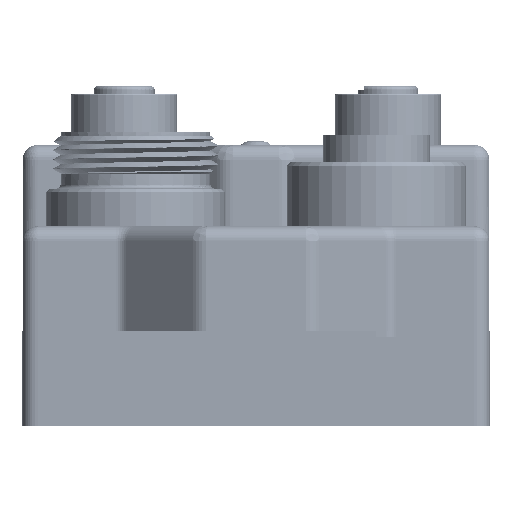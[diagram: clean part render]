
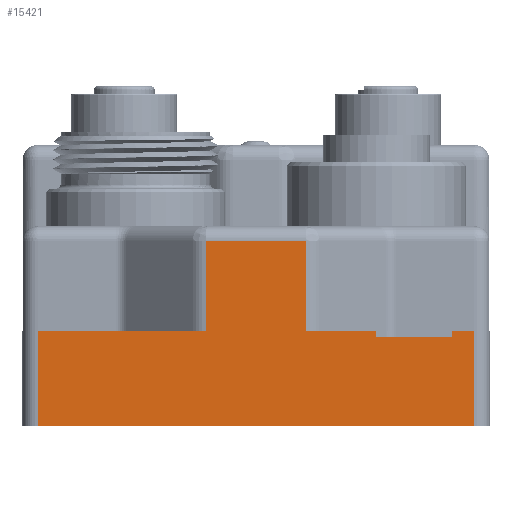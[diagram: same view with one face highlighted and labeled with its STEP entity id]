
A CAD part, front view. The second image highlights one B-rep face of the part: STEP entity #15421.
In plain terms, the highlighted planar face has unit normal (0, -1, 0).
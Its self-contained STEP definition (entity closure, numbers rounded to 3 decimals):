
#8688=CARTESIAN_POINT('',(-8.,-5.25,0.0));
#8689=VERTEX_POINT('',#8688);
#8739=CARTESIAN_POINT('',(50.,-5.25,0.0));
#8740=VERTEX_POINT('',#8739);
#8748=CARTESIAN_POINT('',(-8.,-5.25,0.0));
#8749=DIRECTION('',(1.0,0.0,0.0));
#8750=VECTOR('',#8749,58.);
#8751=LINE('',#8748,#8750);
#8752=EDGE_CURVE('',#8689,#8740,#8751,.T.);
#9589=CARTESIAN_POINT('',(-8.,-5.25,12.6));
#9590=VERTEX_POINT('',#9589);
#9607=CARTESIAN_POINT('',(-8.,-5.25,0.0));
#9608=DIRECTION('',(0.0,0.0,1.0));
#9609=VECTOR('',#9608,12.6);
#9610=LINE('',#9607,#9609);
#9611=EDGE_CURVE('',#8689,#9590,#9610,.T.);
#9816=CARTESIAN_POINT('',(50.,-5.25,12.6));
#9817=VERTEX_POINT('',#9816);
#9825=CARTESIAN_POINT('',(50.,-5.25,0.0));
#9826=DIRECTION('',(0.0,0.0,1.0));
#9827=VECTOR('',#9826,12.6);
#9828=LINE('',#9825,#9827);
#9829=EDGE_CURVE('',#8740,#9817,#9828,.T.);
#9846=CARTESIAN_POINT('',(37.,-5.25,12.6));
#9847=VERTEX_POINT('',#9846);
#9864=CARTESIAN_POINT('',(27.635,-5.25,12.6));
#9865=VERTEX_POINT('',#9864);
#9873=CARTESIAN_POINT('',(37.,-5.25,12.6));
#9874=DIRECTION('',(-1.0,0.0,0.0));
#9875=VECTOR('',#9874,9.365);
#9876=LINE('',#9873,#9875);
#9877=EDGE_CURVE('',#9847,#9865,#9876,.T.);
#9896=CARTESIAN_POINT('',(14.365,-5.25,12.6));
#9897=VERTEX_POINT('',#9896);
#9898=CARTESIAN_POINT('',(14.365,-5.25,12.6));
#9899=DIRECTION('',(-1.0,0.0,0.0));
#9900=VECTOR('',#9899,22.365);
#9901=LINE('',#9898,#9900);
#9902=EDGE_CURVE('',#9897,#9590,#9901,.T.);
#12590=CARTESIAN_POINT('',(47.,-5.25,12.6));
#12591=VERTEX_POINT('',#12590);
#12598=CARTESIAN_POINT('',(50.,-5.25,12.6));
#12599=DIRECTION('',(-1.0,0.0,0.0));
#12600=VECTOR('',#12599,3.);
#12601=LINE('',#12598,#12600);
#12602=EDGE_CURVE('',#9817,#12591,#12601,.T.);
#12721=CARTESIAN_POINT('',(47.,-5.25,11.8));
#12722=VERTEX_POINT('',#12721);
#12723=CARTESIAN_POINT('',(37.,-5.25,11.8));
#12724=VERTEX_POINT('',#12723);
#12725=CARTESIAN_POINT('',(47.,-5.25,11.8));
#12726=DIRECTION('',(-1.0,0.0,0.0));
#12727=VECTOR('',#12726,10.);
#12728=LINE('',#12725,#12727);
#12729=EDGE_CURVE('',#12722,#12724,#12728,.T.);
#12781=CARTESIAN_POINT('',(47.,-5.25,12.6));
#12782=DIRECTION('',(0.0,0.0,-1.0));
#12783=VECTOR('',#12782,0.8);
#12784=LINE('',#12781,#12783);
#12785=EDGE_CURVE('',#12591,#12722,#12784,.T.);
#12825=CARTESIAN_POINT('',(37.,-5.25,11.8));
#12826=DIRECTION('',(0.0,0.0,1.0));
#12827=VECTOR('',#12826,0.8);
#12828=LINE('',#12825,#12827);
#12829=EDGE_CURVE('',#12724,#9847,#12828,.T.);
#15370=CARTESIAN_POINT('',(14.365,-5.25,24.5));
#15371=VERTEX_POINT('',#15370);
#15381=CARTESIAN_POINT('',(14.365,-5.25,24.5));
#15382=DIRECTION('',(0.0,0.0,-1.0));
#15383=VECTOR('',#15382,11.9);
#15384=LINE('',#15381,#15383);
#15385=EDGE_CURVE('',#15371,#9897,#15384,.T.);
#15390=CARTESIAN_POINT('',(50.,-5.25,0.0));
#15391=DIRECTION('',(0.0,-1.0,0.0));
#15392=DIRECTION('',(0.0,0.0,-1.0));
#15393=AXIS2_PLACEMENT_3D('',#15390,#15391,#15392);
#15394=PLANE('',#15393);
#15395=CARTESIAN_POINT('',(27.635,-5.25,24.5));
#15396=VERTEX_POINT('',#15395);
#15397=CARTESIAN_POINT('',(14.365,-5.25,24.5));
#15398=DIRECTION('',(1.0,0.0,0.0));
#15399=VECTOR('',#15398,13.269);
#15400=LINE('',#15397,#15399);
#15401=EDGE_CURVE('',#15371,#15396,#15400,.T.);
#15402=ORIENTED_EDGE('',*,*,#15401,.F.);
#15403=ORIENTED_EDGE('',*,*,#15385,.T.);
#15404=ORIENTED_EDGE('',*,*,#9902,.T.);
#15405=ORIENTED_EDGE('',*,*,#9611,.F.);
#15406=ORIENTED_EDGE('',*,*,#8752,.T.);
#15407=ORIENTED_EDGE('',*,*,#9829,.T.);
#15408=ORIENTED_EDGE('',*,*,#12602,.T.);
#15409=ORIENTED_EDGE('',*,*,#12785,.T.);
#15410=ORIENTED_EDGE('',*,*,#12729,.T.);
#15411=ORIENTED_EDGE('',*,*,#12829,.T.);
#15412=ORIENTED_EDGE('',*,*,#9877,.T.);
#15413=CARTESIAN_POINT('',(27.635,-5.25,12.6));
#15414=DIRECTION('',(0.0,0.0,1.0));
#15415=VECTOR('',#15414,11.9);
#15416=LINE('',#15413,#15415);
#15417=EDGE_CURVE('',#9865,#15396,#15416,.T.);
#15418=ORIENTED_EDGE('',*,*,#15417,.T.);
#15419=EDGE_LOOP('',(#15402,#15403,#15404,#15405,#15406,#15407,#15408,#15409,#15410,#15411,#15412,#15418));
#15420=FACE_OUTER_BOUND('',#15419,.T.);
#15421=ADVANCED_FACE('',(#15420),#15394,.T.);
